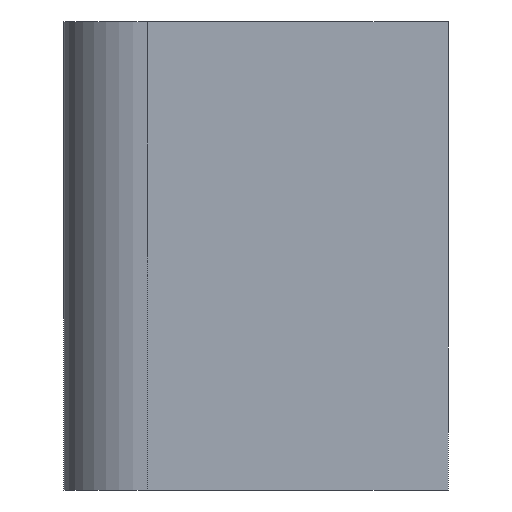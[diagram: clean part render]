
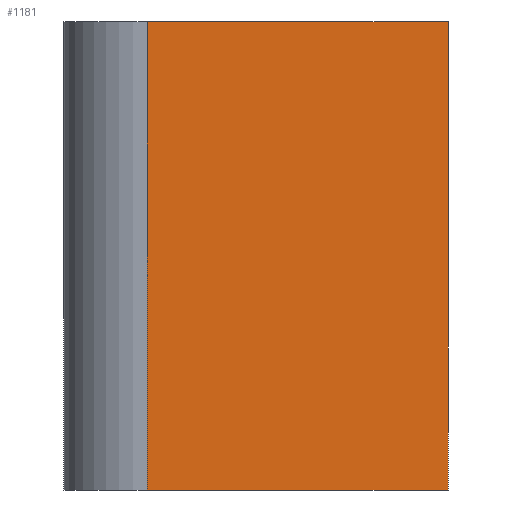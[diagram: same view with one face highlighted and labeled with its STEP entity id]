
A CAD part, front view. The second image highlights one B-rep face of the part: STEP entity #1181.
In plain terms, the highlighted planar face has unit normal (0, -1, 0).
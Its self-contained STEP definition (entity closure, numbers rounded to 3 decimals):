
#158 = CYLINDRICAL_SURFACE('',#159,2.);
#159 = AXIS2_PLACEMENT_3D('',#160,#161,#162);
#160 = CARTESIAN_POINT('',(-0.2,-2.6,0.));
#161 = DIRECTION('',(-0.,-0.,1.));
#162 = DIRECTION('',(-1.,-0.,0.));
#186 = PLANE('',#187);
#187 = AXIS2_PLACEMENT_3D('',#188,#189,#190);
#188 = CARTESIAN_POINT('',(-2.2,21.1,11.2));
#189 = DIRECTION('',(0.,0.,1.));
#190 = DIRECTION('',(-1.,0.,0.));
#240 = PLANE('',#241);
#241 = AXIS2_PLACEMENT_3D('',#242,#243,#244);
#242 = CARTESIAN_POINT('',(-2.2,21.1,0.));
#243 = DIRECTION('',(0.,0.,1.));
#244 = DIRECTION('',(-1.,0.,0.));
#537 = VERTEX_POINT('',#538);
#538 = CARTESIAN_POINT('',(-0.2,-4.6,0.));
#560 = EDGE_CURVE('',#537,#561,#563,.T.);
#561 = VERTEX_POINT('',#562);
#562 = CARTESIAN_POINT('',(-0.2,-4.6,11.2));
#563 = SURFACE_CURVE('',#564,(#568,#575),.PCURVE_S1.);
#564 = LINE('',#565,#566);
#565 = CARTESIAN_POINT('',(-0.2,-4.6,0.));
#566 = VECTOR('',#567,1.);
#567 = DIRECTION('',(0.,0.,1.));
#568 = PCURVE('',#158,#569);
#569 = DEFINITIONAL_REPRESENTATION('',(#570),#574);
#570 = LINE('',#571,#572);
#571 = CARTESIAN_POINT('',(1.571,0.));
#572 = VECTOR('',#573,1.);
#573 = DIRECTION('',(0.,1.));
#574 = ( GEOMETRIC_REPRESENTATION_CONTEXT(2) 
PARAMETRIC_REPRESENTATION_CONTEXT() REPRESENTATION_CONTEXT('2D SPACE',''
  ) );
#575 = PCURVE('',#576,#581);
#576 = PLANE('',#577);
#577 = AXIS2_PLACEMENT_3D('',#578,#579,#580);
#578 = CARTESIAN_POINT('',(-2.2,-4.6,0.));
#579 = DIRECTION('',(0.,-1.,0.));
#580 = DIRECTION('',(-0.,-0.,-1.));
#581 = DEFINITIONAL_REPRESENTATION('',(#582),#586);
#582 = LINE('',#583,#584);
#583 = CARTESIAN_POINT('',(-0.,2.));
#584 = VECTOR('',#585,1.);
#585 = DIRECTION('',(-1.,0.));
#586 = ( GEOMETRIC_REPRESENTATION_CONTEXT(2) 
PARAMETRIC_REPRESENTATION_CONTEXT() REPRESENTATION_CONTEXT('2D SPACE',''
  ) );
#672 = VERTEX_POINT('',#673);
#673 = CARTESIAN_POINT('',(7.,-4.6,0.));
#686 = PLANE('',#687);
#687 = AXIS2_PLACEMENT_3D('',#688,#689,#690);
#688 = CARTESIAN_POINT('',(7.,-4.7,-0.1));
#689 = DIRECTION('',(1.,0.,0.));
#690 = DIRECTION('',(0.,0.,1.));
#697 = EDGE_CURVE('',#537,#672,#698,.T.);
#698 = SURFACE_CURVE('',#699,(#703,#710),.PCURVE_S1.);
#699 = LINE('',#700,#701);
#700 = CARTESIAN_POINT('',(-2.2,-4.6,0.));
#701 = VECTOR('',#702,1.);
#702 = DIRECTION('',(1.,0.,-0.));
#703 = PCURVE('',#240,#704);
#704 = DEFINITIONAL_REPRESENTATION('',(#705),#709);
#705 = LINE('',#706,#707);
#706 = CARTESIAN_POINT('',(-0.,25.7));
#707 = VECTOR('',#708,1.);
#708 = DIRECTION('',(-1.,0.));
#709 = ( GEOMETRIC_REPRESENTATION_CONTEXT(2) 
PARAMETRIC_REPRESENTATION_CONTEXT() REPRESENTATION_CONTEXT('2D SPACE',''
  ) );
#710 = PCURVE('',#576,#711);
#711 = DEFINITIONAL_REPRESENTATION('',(#712),#716);
#712 = LINE('',#713,#714);
#713 = CARTESIAN_POINT('',(-0.,0.));
#714 = VECTOR('',#715,1.);
#715 = DIRECTION('',(-0.,1.));
#716 = ( GEOMETRIC_REPRESENTATION_CONTEXT(2) 
PARAMETRIC_REPRESENTATION_CONTEXT() REPRESENTATION_CONTEXT('2D SPACE',''
  ) );
#802 = VERTEX_POINT('',#803);
#803 = CARTESIAN_POINT('',(7.,-4.6,11.2));
#822 = EDGE_CURVE('',#561,#802,#823,.T.);
#823 = SURFACE_CURVE('',#824,(#828,#835),.PCURVE_S1.);
#824 = LINE('',#825,#826);
#825 = CARTESIAN_POINT('',(-2.2,-4.6,11.2));
#826 = VECTOR('',#827,1.);
#827 = DIRECTION('',(1.,0.,-0.));
#828 = PCURVE('',#186,#829);
#829 = DEFINITIONAL_REPRESENTATION('',(#830),#834);
#830 = LINE('',#831,#832);
#831 = CARTESIAN_POINT('',(-0.,25.7));
#832 = VECTOR('',#833,1.);
#833 = DIRECTION('',(-1.,0.));
#834 = ( GEOMETRIC_REPRESENTATION_CONTEXT(2) 
PARAMETRIC_REPRESENTATION_CONTEXT() REPRESENTATION_CONTEXT('2D SPACE',''
  ) );
#835 = PCURVE('',#576,#836);
#836 = DEFINITIONAL_REPRESENTATION('',(#837),#841);
#837 = LINE('',#838,#839);
#838 = CARTESIAN_POINT('',(-11.2,0.));
#839 = VECTOR('',#840,1.);
#840 = DIRECTION('',(-0.,1.));
#841 = ( GEOMETRIC_REPRESENTATION_CONTEXT(2) 
PARAMETRIC_REPRESENTATION_CONTEXT() REPRESENTATION_CONTEXT('2D SPACE',''
  ) );
#1181 = ADVANCED_FACE('',(#1182),#576,.T.);
#1182 = FACE_BOUND('',#1183,.F.);
#1183 = EDGE_LOOP('',(#1184,#1185,#1186,#1187));
#1184 = ORIENTED_EDGE('',*,*,#697,.F.);
#1185 = ORIENTED_EDGE('',*,*,#560,.T.);
#1186 = ORIENTED_EDGE('',*,*,#822,.T.);
#1187 = ORIENTED_EDGE('',*,*,#1188,.F.);
#1188 = EDGE_CURVE('',#672,#802,#1189,.T.);
#1189 = SURFACE_CURVE('',#1190,(#1194,#1201),.PCURVE_S1.);
#1190 = LINE('',#1191,#1192);
#1191 = CARTESIAN_POINT('',(7.,-4.6,0.));
#1192 = VECTOR('',#1193,1.);
#1193 = DIRECTION('',(0.,0.,1.));
#1194 = PCURVE('',#576,#1195);
#1195 = DEFINITIONAL_REPRESENTATION('',(#1196),#1200);
#1196 = LINE('',#1197,#1198);
#1197 = CARTESIAN_POINT('',(-0.,9.2));
#1198 = VECTOR('',#1199,1.);
#1199 = DIRECTION('',(-1.,0.));
#1200 = ( GEOMETRIC_REPRESENTATION_CONTEXT(2) 
PARAMETRIC_REPRESENTATION_CONTEXT() REPRESENTATION_CONTEXT('2D SPACE',''
  ) );
#1201 = PCURVE('',#686,#1202);
#1202 = DEFINITIONAL_REPRESENTATION('',(#1203),#1207);
#1203 = LINE('',#1204,#1205);
#1204 = CARTESIAN_POINT('',(0.1,-0.1));
#1205 = VECTOR('',#1206,1.);
#1206 = DIRECTION('',(1.,0.));
#1207 = ( GEOMETRIC_REPRESENTATION_CONTEXT(2) 
PARAMETRIC_REPRESENTATION_CONTEXT() REPRESENTATION_CONTEXT('2D SPACE',''
  ) );
